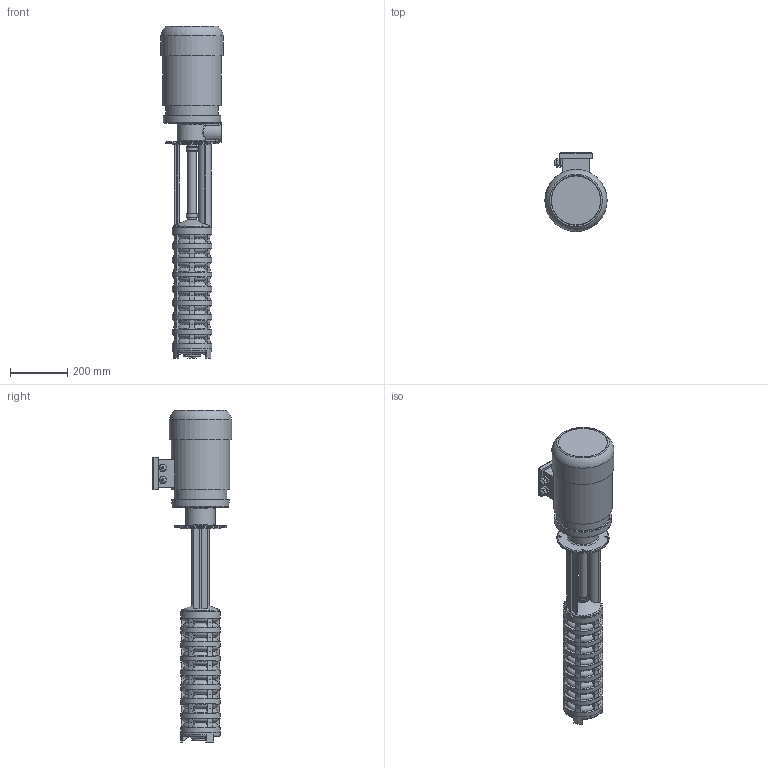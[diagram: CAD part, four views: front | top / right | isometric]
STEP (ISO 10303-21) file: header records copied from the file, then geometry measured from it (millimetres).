
FILE_DESCRIPTION(/* description */ ('Unknown'),/* implementation_level */ '2;1');
FILE_NAME(/* name */ 'gp9-750',/* time_stamp */ '2025-06-17T14:07:07+03:00',/* author */ ('Unknown'),/* organization */ ('Unknown'),/* preprocessor_version */ 'ST-DEVELOPER v16.7',/* originating_system */ 'DEX',/* authorisation */ $);
FILE_SCHEMA (('AUTOMOTIVE_DESIGN {1 0 10303 214 3 1 1}'));
Length unit declared in the file: millimetre
Products named in the file (1): gp9-750
Bounding box: 218 x 277.5 x 1162.99 mm (x, y, z)
Volume: 19972852.4 mm3; surface area: 820277 mm2
Topology: 1 solids, 1 shells, 676 faces, 1849 edges, 1210 vertices
Faces by surface type: plane 223, cone 129, cylinder 124, torus 116, bspline 84
Full cylindrical faces by diameter (mm): 17 x2, 21.5 x2, 29 x3, 33 x2, 35 x2, 39 x2, 40.5 x2, 45 x1, 47 x1, 60 x1, 137 x1, 139 x9, 140 x1, 185.379 x1, 200 x1, 206 x1, 218 x1
Entity records: 23920 total; most frequent: CARTESIAN_POINT 7229, ORIENTED_EDGE 3490, DIRECTION 3454, EDGE_CURVE 1745, AXIS2_PLACEMENT_3D 1323, VERTEX_POINT 1180, LINE 808, VECTOR 808
